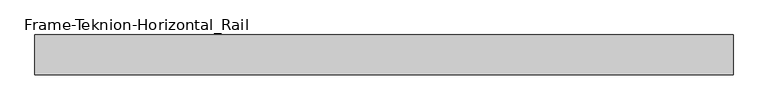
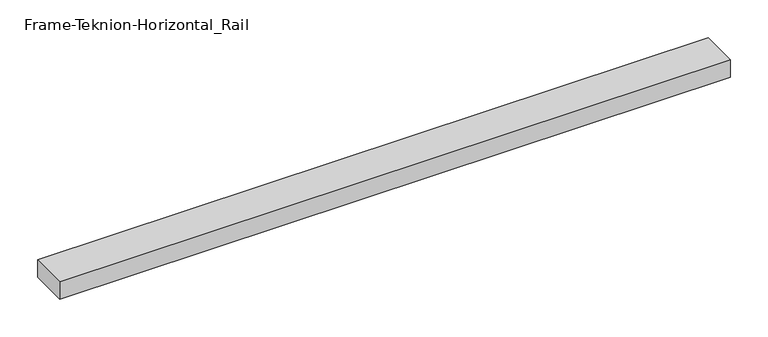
"""IFC4 building model written with IfcOpenShell, lengths in millimetres: proxy geometry, Frame-Teknion-Horizontal_Rail : FPKK."""

from ifc_helpers import new_model, si_unit, frame, origin, place, context, project, spatial, polyline, outline, extrude, source, transform, mapped, element, save


def frame_teknion_horizontal_rail_915d0f1b(model_context):
    return source(origin(), model_context, "Body", "SweptSolid", [
        extrude(outline(polyline([(-512.4152344, -29.2199219), (-512.4152344, 29.2199219), (512.4152344, 29.2199219), (512.4152344, -29.2199219), (-512.4152344, -29.2199219)])), frame((0.0, 0.0, -13.9898438), z_axis=(0.0, 0.0, 1.0), x_axis=(1.0, 0.0, 0.0)), (0.0, 0.0, 1.0), 27.9796875),
    ])


if __name__ == "__main__":
    model = new_model("IFC4")
    model_context = context("Model", 3, world=origin())
    ifc_project = project(units=[si_unit("LENGTHUNIT", "METRE", prefix="MILLI")], contexts=[model_context])
    site = spatial("IfcSite", under=ifc_project)
    building = spatial("IfcBuilding", under=site)
    placement = place(None, origin())
    frame_teknion_horizontal_rail_shape = frame_teknion_horizontal_rail_915d0f1b(model_context)
    element("IfcBuildingElementProxy", 1, Name="Frame-Teknion-Horizontal_Rail : FPKK", ObjectType="Frame-Teknion-Horizontal_Rail : FPKK", at=placement, inside=building, context=model_context, shape_type="MappedRepresentation", body=[
        mapped(frame_teknion_horizontal_rail_shape, transform((0.0, 0.0, 0.0), x_axis=(1.0, 0.0, 0.0), y_axis=(0.0, 1.0, 0.0), z_axis=(0.0, 0.0, 1.0))),
    ])
    save(model, "model.ifc")
